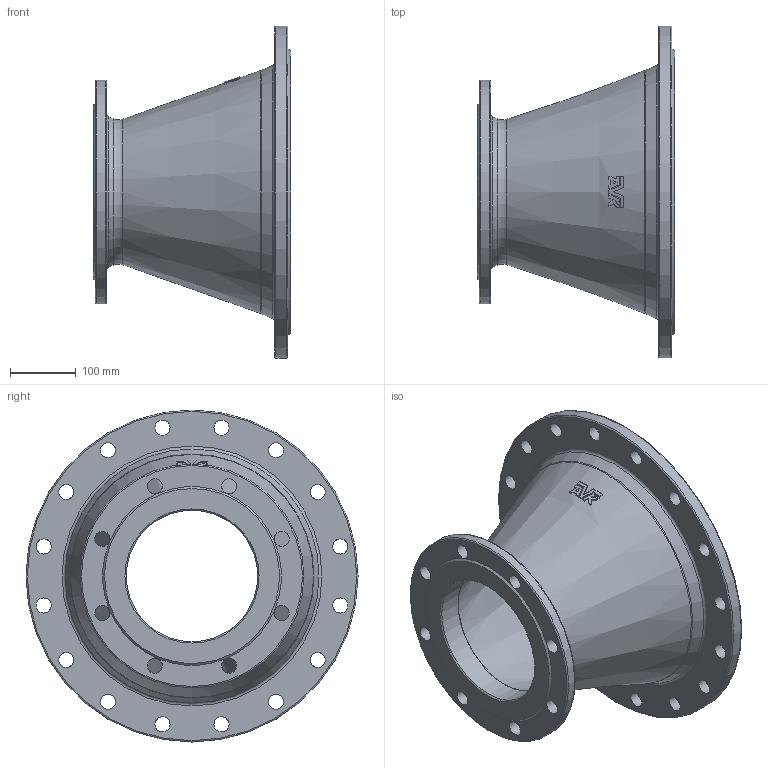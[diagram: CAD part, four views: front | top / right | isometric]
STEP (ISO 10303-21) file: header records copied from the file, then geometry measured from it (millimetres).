
FILE_DESCRIPTION (( 'STEP AP203' ), '1' );
FILE_NAME ('O_712_2210_DN350_DN200_0X_REV01.step', '2024-08-08T06:12:32', ( '' ), ( '' ), 'SwSTEP 2.0', 'SolidWorks 2022', '' );
FILE_SCHEMA (( 'CONFIG_CONTROL_DESIGN' ));
Length unit declared in the file: millimetre
Products named in the file (1): O_712_2210_DN350_DN200_0X_REV01
Bounding box: 300 x 505 x 505 mm (x, y, z)
Volume: 5481047.6 mm3; surface area: 877723.2 mm2
Topology: 1 solids, 1 shells, 93 faces, 286 edges, 179 vertices
Faces by surface type: plane 41, cylinder 30, cone 12, torus 10
Full cylindrical faces by diameter (mm): 23 x24, 200 x1, 340 x1, 350 x1, 505 x1
Entity records: 2916 total; most frequent: CARTESIAN_POINT 731, DIRECTION 421, ORIENTED_EDGE 418, EDGE_CURVE 209, AXIS2_PLACEMENT_3D 192, EDGE_LOOP 173, VERTEX_POINT 148, FACE_OUTER_BOUND 131
